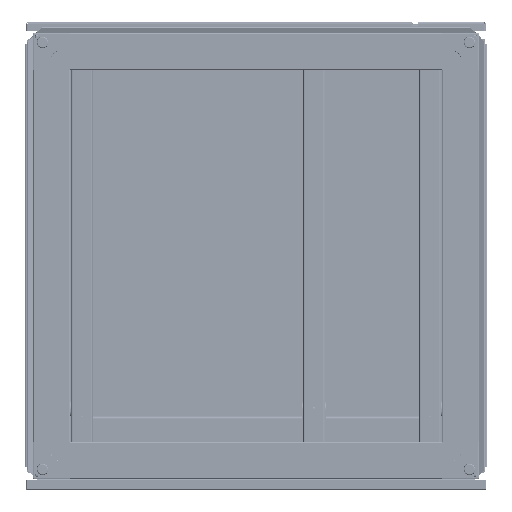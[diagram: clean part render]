
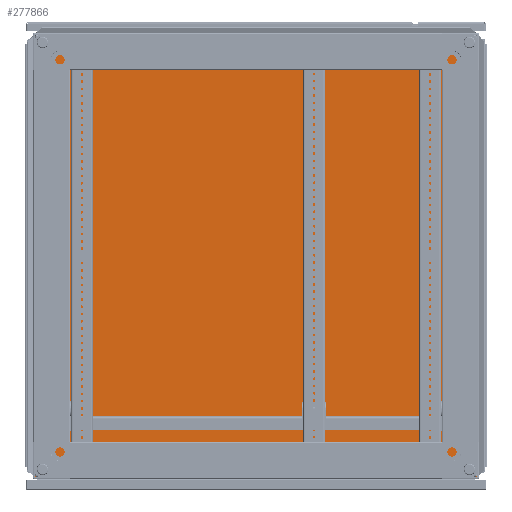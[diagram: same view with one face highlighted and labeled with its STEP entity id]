
A CAD part, front view. The second image highlights one B-rep face of the part: STEP entity #277866.
In plain terms, the highlighted planar face has unit normal (0, -1, 0).
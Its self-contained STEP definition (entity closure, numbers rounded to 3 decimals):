
#275414=DIRECTION('',(-1.,0.,0.));
#275415=VECTOR('',#275414,762.5);
#275416=CARTESIAN_POINT('',(381.25,11.5,381.25));
#275417=LINE('',#275416,#275415);
#275751=DIRECTION('',(0.,0.,-1.));
#275752=VECTOR('',#275751,762.5);
#275753=CARTESIAN_POINT('',(-381.25,11.5,381.25));
#275754=LINE('',#275753,#275752);
#275770=DIRECTION('',(-1.,0.,0.));
#275771=VECTOR('',#275770,762.5);
#275772=CARTESIAN_POINT('',(381.25,11.5,-381.25));
#275773=LINE('',#275772,#275771);
#275774=DIRECTION('',(0.,0.,-1.));
#275775=VECTOR('',#275774,762.5);
#275776=CARTESIAN_POINT('',(381.25,11.5,381.25));
#275777=LINE('',#275776,#275775);
#275778=CARTESIAN_POINT('',(367.5,11.5,367.5));
#275779=DIRECTION('',(0.,1.,0.));
#275780=DIRECTION('',(1.,0.,0.));
#275781=AXIS2_PLACEMENT_3D('',#275778,#275779,#275780);
#275783=CARTESIAN_POINT('',(367.5,11.5,367.5));
#275784=DIRECTION('',(0.,1.,0.));
#275785=DIRECTION('',(-1.,0.,0.));
#275786=AXIS2_PLACEMENT_3D('',#275783,#275784,#275785);
#275788=CARTESIAN_POINT('',(367.5,11.5,-367.5));
#275789=DIRECTION('',(0.,-1.,0.));
#275790=DIRECTION('',(1.,0.,0.));
#275791=AXIS2_PLACEMENT_3D('',#275788,#275789,#275790);
#275793=CARTESIAN_POINT('',(367.5,11.5,-367.5));
#275794=DIRECTION('',(0.,-1.,0.));
#275795=DIRECTION('',(-1.,0.,0.));
#275796=AXIS2_PLACEMENT_3D('',#275793,#275794,#275795);
#275798=CARTESIAN_POINT('',(-367.5,11.5,367.5));
#275799=DIRECTION('',(0.,-1.,0.));
#275800=DIRECTION('',(-1.,0.,0.));
#275801=AXIS2_PLACEMENT_3D('',#275798,#275799,#275800);
#275803=CARTESIAN_POINT('',(-367.5,11.5,367.5));
#275804=DIRECTION('',(0.,-1.,0.));
#275805=DIRECTION('',(1.,0.,0.));
#275806=AXIS2_PLACEMENT_3D('',#275803,#275804,#275805);
#275808=CARTESIAN_POINT('',(-367.5,11.5,-367.5));
#275809=DIRECTION('',(0.,1.,0.));
#275810=DIRECTION('',(-1.,0.,0.));
#275811=AXIS2_PLACEMENT_3D('',#275808,#275809,#275810);
#275813=CARTESIAN_POINT('',(-367.5,11.5,-367.5));
#275814=DIRECTION('',(0.,1.,0.));
#275815=DIRECTION('',(1.,0.,0.));
#275816=AXIS2_PLACEMENT_3D('',#275813,#275814,#275815);
#275818=CARTESIAN_POINT('',(299.75,11.5,0.));
#275819=DIRECTION('',(0.,-1.,0.));
#275820=DIRECTION('',(0.,0.,-1.));
#275821=AXIS2_PLACEMENT_3D('',#275818,#275819,#275820);
#275823=CARTESIAN_POINT('',(299.75,11.5,0.));
#275824=DIRECTION('',(0.,-1.,0.));
#275825=DIRECTION('',(0.,0.,1.));
#275826=AXIS2_PLACEMENT_3D('',#275823,#275824,#275825);
#275828=CARTESIAN_POINT('',(-299.75,11.5,0.));
#275829=DIRECTION('',(0.,-1.,0.));
#275830=DIRECTION('',(0.,0.,-1.));
#275831=AXIS2_PLACEMENT_3D('',#275828,#275829,#275830);
#275833=CARTESIAN_POINT('',(-299.75,11.5,0.));
#275834=DIRECTION('',(0.,-1.,0.));
#275835=DIRECTION('',(0.,0.,1.));
#275836=AXIS2_PLACEMENT_3D('',#275833,#275834,#275835);
#276464=CARTESIAN_POINT('',(377.993,11.5,367.5));
#276465=CARTESIAN_POINT('',(357.007,11.5,367.5));
#276466=VERTEX_POINT('',#276464);
#276467=VERTEX_POINT('',#276465);
#276488=CARTESIAN_POINT('',(377.993,11.5,-367.5));
#276489=CARTESIAN_POINT('',(357.007,11.5,-367.5));
#276490=VERTEX_POINT('',#276488);
#276491=VERTEX_POINT('',#276489);
#276512=CARTESIAN_POINT('',(-377.993,11.5,367.5));
#276513=CARTESIAN_POINT('',(-357.007,11.5,367.5));
#276514=VERTEX_POINT('',#276512);
#276515=VERTEX_POINT('',#276513);
#276536=CARTESIAN_POINT('',(-377.993,11.5,-367.5));
#276537=CARTESIAN_POINT('',(-357.007,11.5,-367.5));
#276538=VERTEX_POINT('',#276536);
#276539=VERTEX_POINT('',#276537);
#276548=CARTESIAN_POINT('',(299.75,11.5,-0.5));
#276549=CARTESIAN_POINT('',(299.75,11.5,0.5));
#276550=VERTEX_POINT('',#276548);
#276551=VERTEX_POINT('',#276549);
#276552=CARTESIAN_POINT('',(-299.75,11.5,-0.5));
#276553=CARTESIAN_POINT('',(-299.75,11.5,0.5));
#276554=VERTEX_POINT('',#276552);
#276555=VERTEX_POINT('',#276553);
#276580=CARTESIAN_POINT('',(381.25,11.5,381.25));
#276582=VERTEX_POINT('',#276580);
#276584=CARTESIAN_POINT('',(-381.25,11.5,381.25));
#276585=VERTEX_POINT('',#276584);
#276596=CARTESIAN_POINT('',(381.25,11.5,-381.25));
#276598=VERTEX_POINT('',#276596);
#276602=CARTESIAN_POINT('',(-381.25,11.5,-381.25));
#276603=VERTEX_POINT('',#276602);
#277819=CARTESIAN_POINT('',(381.25,11.5,-381.25));
#277820=DIRECTION('',(0.,1.,0.));
#277821=DIRECTION('',(0.,0.,1.));
#277822=AXIS2_PLACEMENT_3D('',#277819,#277820,#277821);
#277823=PLANE('',#277822);
#277824=ORIENTED_EDGE('',*,*,#277351,.T.);
#277825=ORIENTED_EDGE('',*,*,#277809,.F.);
#277826=ORIENTED_EDGE('',*,*,#277245,.F.);
#277827=ORIENTED_EDGE('',*,*,#277313,.T.);
#277828=EDGE_LOOP('',(#277824,#277825,#277826,#277827));
#277829=FACE_OUTER_BOUND('',#277828,.F.);
#277831=ORIENTED_EDGE('',*,*,#277830,.F.);
#277833=ORIENTED_EDGE('',*,*,#277832,.F.);
#277834=EDGE_LOOP('',(#277831,#277833));
#277835=FACE_BOUND('',#277834,.F.);
#277837=ORIENTED_EDGE('',*,*,#277836,.T.);
#277839=ORIENTED_EDGE('',*,*,#277838,.T.);
#277840=EDGE_LOOP('',(#277837,#277839));
#277841=FACE_BOUND('',#277840,.F.);
#277843=ORIENTED_EDGE('',*,*,#277842,.T.);
#277845=ORIENTED_EDGE('',*,*,#277844,.T.);
#277846=EDGE_LOOP('',(#277843,#277845));
#277847=FACE_BOUND('',#277846,.F.);
#277849=ORIENTED_EDGE('',*,*,#277848,.F.);
#277851=ORIENTED_EDGE('',*,*,#277850,.F.);
#277852=EDGE_LOOP('',(#277849,#277851));
#277853=FACE_BOUND('',#277852,.F.);
#277855=ORIENTED_EDGE('',*,*,#277854,.T.);
#277857=ORIENTED_EDGE('',*,*,#277856,.T.);
#277858=EDGE_LOOP('',(#277855,#277857));
#277859=FACE_BOUND('',#277858,.F.);
#277861=ORIENTED_EDGE('',*,*,#277860,.T.);
#277863=ORIENTED_EDGE('',*,*,#277862,.T.);
#277864=EDGE_LOOP('',(#277861,#277863));
#277865=FACE_BOUND('',#277864,.F.);
#277866=ADVANCED_FACE('',(#277829,#277835,#277841,#277847,#277853,#277859,
#277865),#277823,.F.);
#275782=CIRCLE('',#275781,10.493);
#275787=CIRCLE('',#275786,10.493);
#275792=CIRCLE('',#275791,10.493);
#275797=CIRCLE('',#275796,10.493);
#275802=CIRCLE('',#275801,10.493);
#275807=CIRCLE('',#275806,10.493);
#275812=CIRCLE('',#275811,10.493);
#275817=CIRCLE('',#275816,10.493);
#275822=CIRCLE('',#275821,0.5);
#275827=CIRCLE('',#275826,0.5);
#275832=CIRCLE('',#275831,0.5);
#275837=CIRCLE('',#275836,0.5);
#277245=EDGE_CURVE('',#276582,#276585,#275417,.T.);
#277313=EDGE_CURVE('',#276582,#276598,#275777,.T.);
#277351=EDGE_CURVE('',#276598,#276603,#275773,.T.);
#277809=EDGE_CURVE('',#276585,#276603,#275754,.T.);
#277830=EDGE_CURVE('',#276466,#276467,#275782,.T.);
#277832=EDGE_CURVE('',#276467,#276466,#275787,.T.);
#277836=EDGE_CURVE('',#276490,#276491,#275792,.T.);
#277838=EDGE_CURVE('',#276491,#276490,#275797,.T.);
#277842=EDGE_CURVE('',#276514,#276515,#275802,.T.);
#277844=EDGE_CURVE('',#276515,#276514,#275807,.T.);
#277848=EDGE_CURVE('',#276538,#276539,#275812,.T.);
#277850=EDGE_CURVE('',#276539,#276538,#275817,.T.);
#277854=EDGE_CURVE('',#276550,#276551,#275822,.T.);
#277856=EDGE_CURVE('',#276551,#276550,#275827,.T.);
#277860=EDGE_CURVE('',#276554,#276555,#275832,.T.);
#277862=EDGE_CURVE('',#276555,#276554,#275837,.T.);
